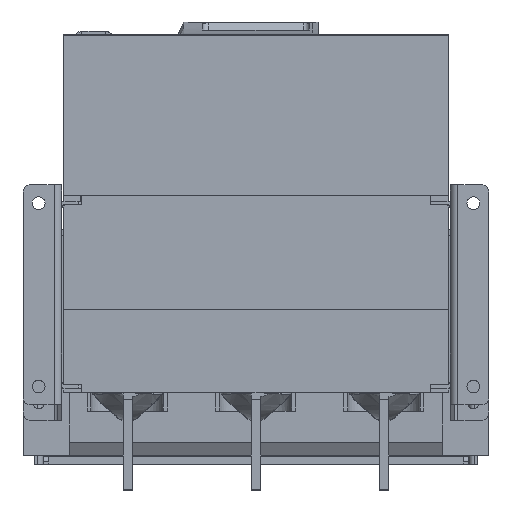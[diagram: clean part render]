
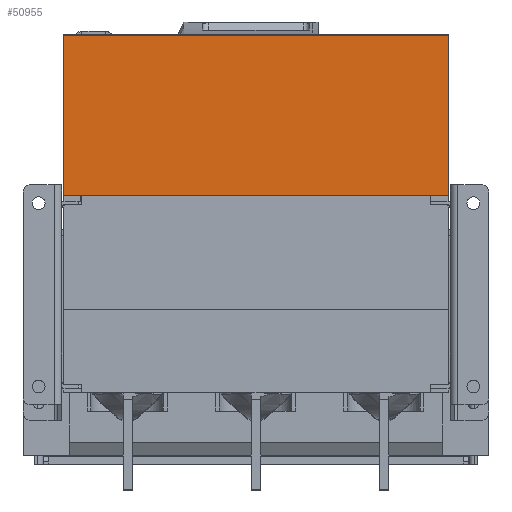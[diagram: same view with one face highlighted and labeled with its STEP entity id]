
A CAD part, top view. The second image highlights one B-rep face of the part: STEP entity #50955.
In plain terms, the highlighted planar face has unit normal (0, 0, 1).
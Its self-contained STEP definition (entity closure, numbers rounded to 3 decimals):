
#43381=DIRECTION('',(1.,0.,0.));
#43382=VECTOR('',#43381,210.);
#43383=CARTESIAN_POINT('',(-105.,0.,137.5));
#43384=LINE('',#43383,#43382);
#43607=DIRECTION('',(0.,1.,0.));
#43608=VECTOR('',#43607,87.5);
#43609=CARTESIAN_POINT('',(105.,0.,137.5));
#43610=LINE('',#43609,#43608);
#44273=DIRECTION('',(1.,0.,0.));
#44274=VECTOR('',#44273,210.);
#44275=CARTESIAN_POINT('',(-105.,87.5,137.5));
#44276=LINE('',#44275,#44274);
#44472=DIRECTION('',(0.,1.,0.));
#44473=VECTOR('',#44472,87.5);
#44474=CARTESIAN_POINT('',(-105.,0.,137.5));
#44475=LINE('',#44474,#44473);
#49059=CARTESIAN_POINT('',(-105.,0.,137.5));
#49061=VERTEX_POINT('',#49059);
#49062=CARTESIAN_POINT('',(105.,0.,137.5));
#49063=VERTEX_POINT('',#49062);
#49882=CARTESIAN_POINT('',(-105.,87.5,137.5));
#49883=VERTEX_POINT('',#49882);
#49888=CARTESIAN_POINT('',(105.,87.5,137.5));
#49889=VERTEX_POINT('',#49888);
#50944=CARTESIAN_POINT('',(-105.,0.,137.5));
#50945=DIRECTION('',(0.,0.,1.));
#50946=DIRECTION('',(1.,0.,0.));
#50947=AXIS2_PLACEMENT_3D('',#50944,#50945,#50946);
#50948=PLANE('',#50947);
#50949=ORIENTED_EDGE('',*,*,#50806,.T.);
#50950=ORIENTED_EDGE('',*,*,#50380,.F.);
#50951=ORIENTED_EDGE('',*,*,#50127,.F.);
#50952=ORIENTED_EDGE('',*,*,#50611,.T.);
#50953=EDGE_LOOP('',(#50949,#50950,#50951,#50952));
#50954=FACE_OUTER_BOUND('',#50953,.F.);
#50955=ADVANCED_FACE('',(#50954),#50948,.T.);
#50127=EDGE_CURVE('',#49061,#49063,#43384,.T.);
#50380=EDGE_CURVE('',#49063,#49889,#43610,.T.);
#50611=EDGE_CURVE('',#49061,#49883,#44475,.T.);
#50806=EDGE_CURVE('',#49883,#49889,#44276,.T.);
